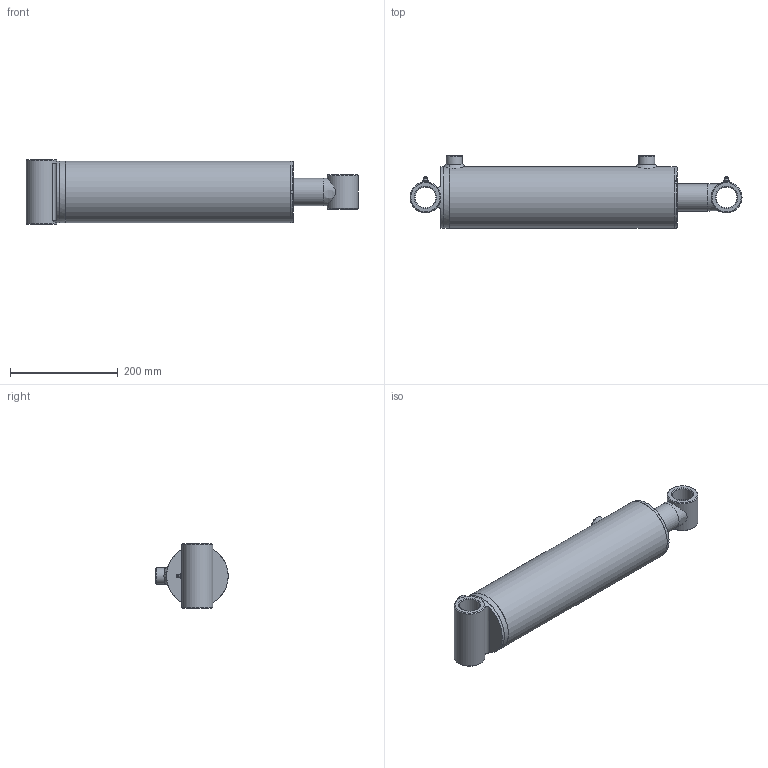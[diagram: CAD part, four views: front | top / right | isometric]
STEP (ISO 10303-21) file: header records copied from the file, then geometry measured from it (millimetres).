
FILE_DESCRIPTION(/* description */ (''),/* implementation_level */ '2;1');
FILE_NAME(/* name */ 'C:\01 - Philip\00 - Philip Rivard\01 - Contracts\Eagle Hydraulic Components\00 - 3D Cylinder\HBU4012-ORB\HBU4012-ORB\01 - Assembly\HBU4012-ORB-STP-OUT.stp',/* time_stamp */ '2014-11-08T10:25:01-05:00',/* author */ ('Philip Rivard'),/* organization */ (''),/* preprocessor_version */ 'ST-DEVELOPER v15.6',/* originating_system */ 'Autodesk Inventor 2015',/* authorisation */ '');
FILE_SCHEMA (('AUTOMOTIVE_DESIGN { 1 0 10303 214 3 1 1 }'));
Length unit declared in the file: inch
Products named in the file (12): Tube_Welding_Welds; Tube; ECP-40-HBU; Straight_Port; Tube_Welding; Gland; Grease Fitting 1-8; Rod_Welding_Welds; Rod; Bushing; Rod_Welding; Cylinder_Assembly_Outside
Bounding box: 616 x 134.3 x 120.6 mm (x, y, z)
Volume: 2645963.7 mm3; surface area: 518617.5 mm2
Topology: 12 solids, 12 shells, 205 faces, 441 edges, 267 vertices
Faces by surface type: cone 65, plane 58, cylinder 54, torus 16, bspline 10, sphere 2
Full cylindrical faces by diameter (mm): 4 x2, 5 x1, 7.95 x2, 8 x2, 10 x4, 17.323 x2, 30 x4, 32 x1, 36 x1, 38.35 x4, 38.95 x2, 50.8 x1, 50.85 x1, 57.2 x2, 63.5 x1, 90 x1, 100.8 x1, 101.55 x1, 101.6 x1, 102 x1, 105 x2, 106 x2, 114 x1, 114.3 x1
Entity records: 6386 total; most frequent: CARTESIAN_POINT 3067, DIRECTION 669, ORIENTED_EDGE 500, AXIS2_PLACEMENT_3D 309, EDGE_LOOP 282, EDGE_CURVE 250, VERTEX_POINT 196, ADVANCED_FACE 165
